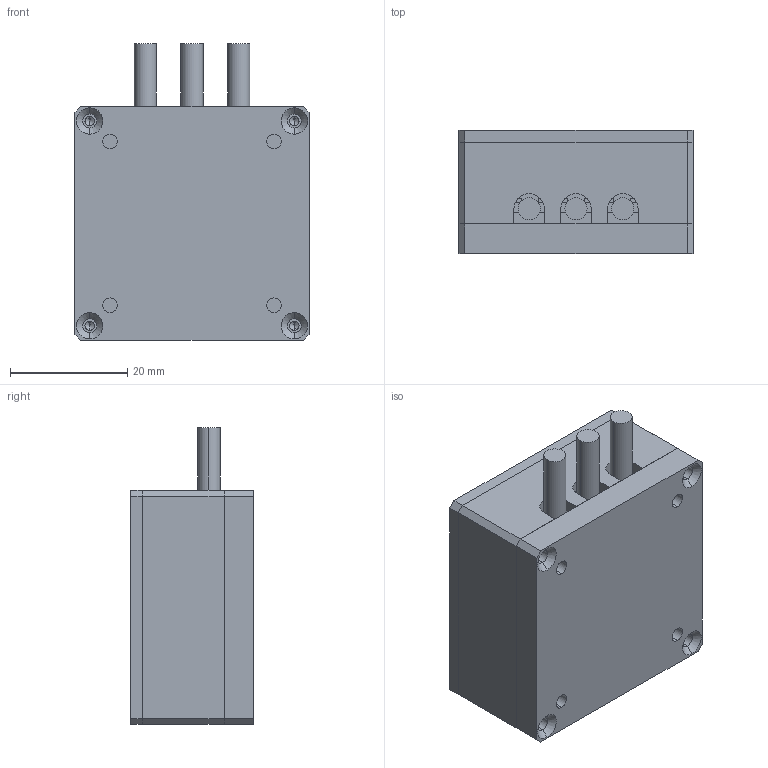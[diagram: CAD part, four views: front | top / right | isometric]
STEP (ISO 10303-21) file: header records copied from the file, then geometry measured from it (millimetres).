
FILE_DESCRIPTION (( 'STEP AP203' ), '1' );
FILE_NAME ('PPX-BO4040-RWB-V3.STEP', '2022-08-31T02:51:58', ( 'Windows User' ), ( 'P R C' ), 'SwSTEP 2.0', 'SolidWorks 2016', '' );
FILE_SCHEMA (( 'CONFIG_CONTROL_DESIGN' ));
Length unit declared in the file: millimetre
Products named in the file (1): PPX-BO4040-RWB-V3
Bounding box: 40 x 21 x 50.73 mm (x, y, z)
Volume: 21925.7 mm3; surface area: 16019.6 mm2
Topology: 7 solids, 7 shells, 263 faces, 650 edges, 414 vertices
Faces by surface type: plane 162, cylinder 63, cone 32, bspline 6
Entity records: 7737 total; most frequent: CARTESIAN_POINT 1390, DIRECTION 1280, ORIENTED_EDGE 1268, EDGE_CURVE 634, LINE 480, VECTOR 480, VERTEX_POINT 414, AXIS2_PLACEMENT_3D 400
